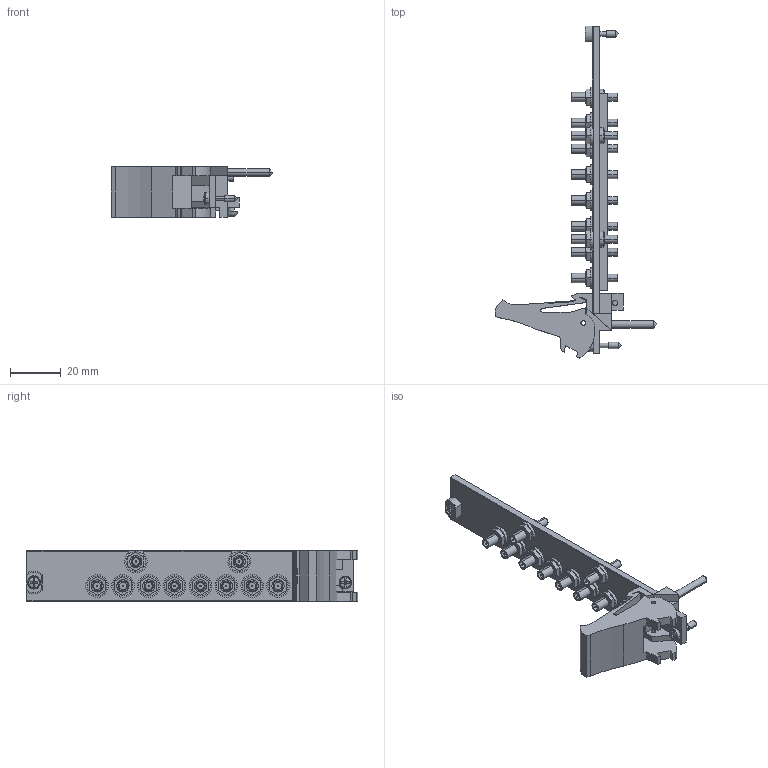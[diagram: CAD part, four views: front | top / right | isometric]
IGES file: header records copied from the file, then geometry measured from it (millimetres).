
Start section:  PTC IGES file: cu_pxi-2556.igs
Global section: file name: cu_pxi-2556.igs; native system: Pro/ENGINEER by Parametric Technology Corporation; preprocessor: 2006080; author: jjorden; organization: Unknown; date: 091005.165328; units: inch
Bounding box: 63.53 x 130.5 x 20.02 mm (x, y, z)
Surface area: 17293.1 mm2 (no closed solid volume)
Topology: 0 solids, 0 shells, 739 faces, 3396 edges, 3388 vertices
Faces by surface type: bspline 427, revolution 312
